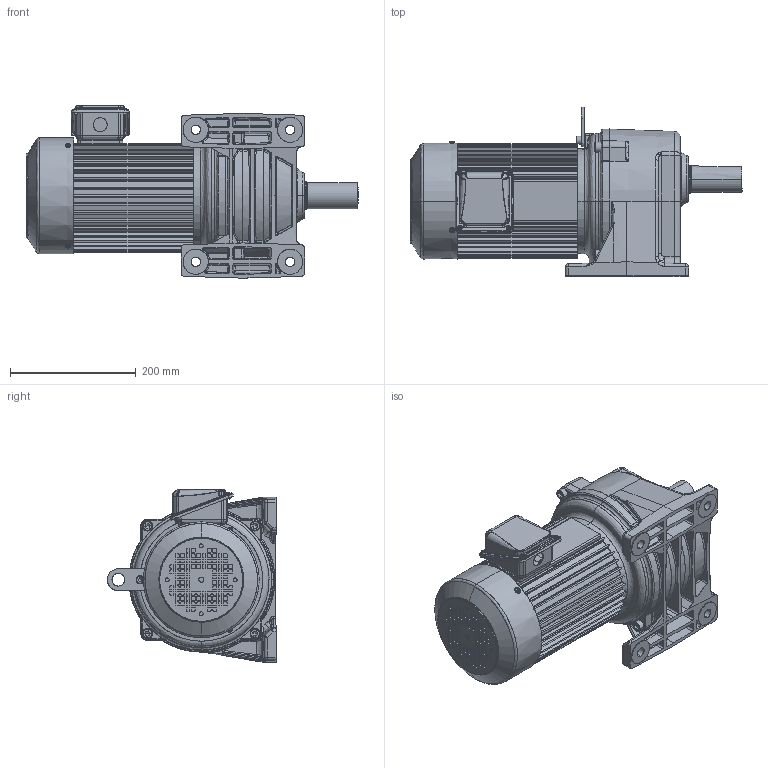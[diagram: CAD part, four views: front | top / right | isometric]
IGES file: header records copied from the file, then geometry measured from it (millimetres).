
Start section: SolidWorks IGES file using analytic representation for surfaces
Global section: file name: \\100.100.100.8\1_共有作業フォルダ\1-5_３Ｄデータ\solidworks\personal-folder\H.Nagayama\SGP1外形075~370\P1(3D)_075~370\igs\TML2-15E-(30~80).IGS; native system: SolidWorks 2018; preprocessor: SolidWorks 2018; author: sigma-giken; date: 200807.143337; units: millimetre
Bounding box: 528 x 269.5 x 274 mm (x, y, z)
Surface area: 817883 mm2 (no closed solid volume)
Topology: 0 solids, 0 shells, 2673 faces, 29565 edges, 29514 vertices
Faces by surface type: bspline 1453, revolution 1220
